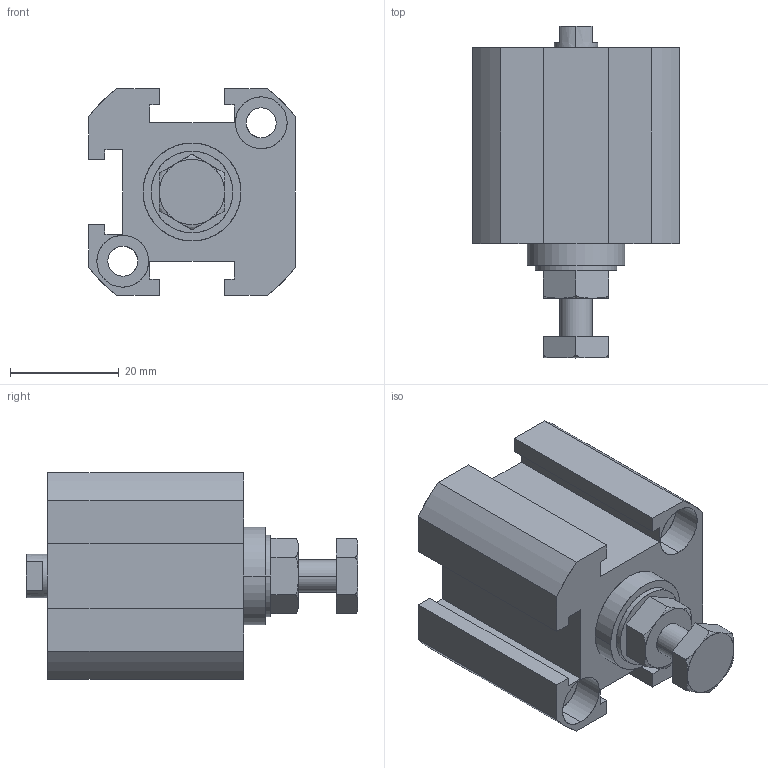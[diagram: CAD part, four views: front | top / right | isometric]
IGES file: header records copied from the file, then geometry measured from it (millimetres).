
Start section: SolidWorks IGES file using analytic representation for surfaces
Global section: file name: C:\Users\Toshiba\Desktop\XGA2-20-10.IGS; native system: SolidWorks 2014; preprocessor: SolidWorks 2014; author: Toshiba; date: 160524.103943; units: millimetre
Bounding box: 38 x 61 x 38 mm (x, y, z)
Surface area: 13075.2 mm2 (no closed solid volume)
Topology: 0 solids, 0 shells, 125 faces, 1943 edges, 1937 vertices
Faces by surface type: bspline 74, revolution 51
